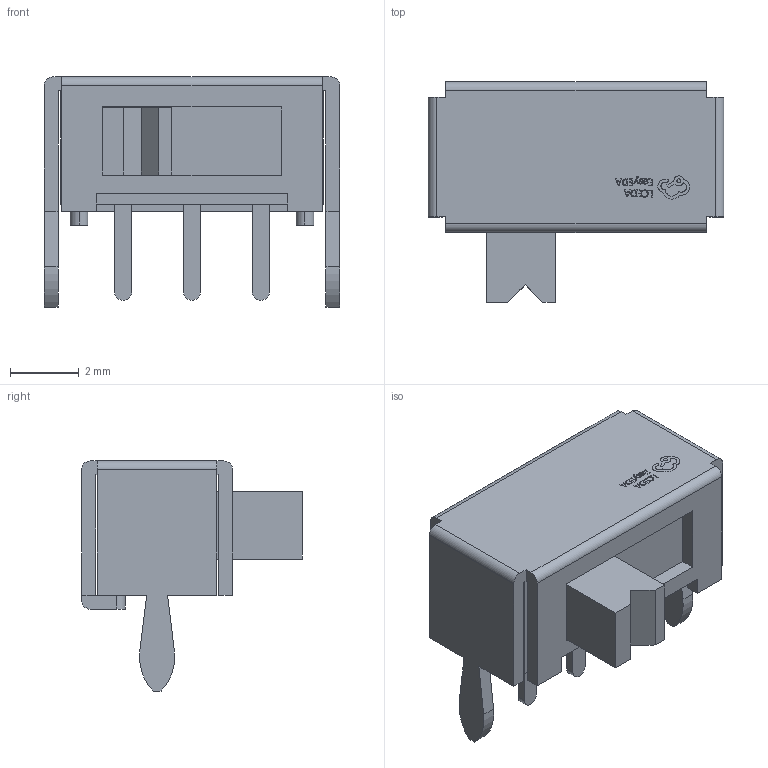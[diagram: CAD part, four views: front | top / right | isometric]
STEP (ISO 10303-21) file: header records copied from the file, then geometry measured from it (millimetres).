
FILE_DESCRIPTION (( 'STEP AP214' ), '1' );
FILE_NAME ('SW-TH_OS102011MA1QN1.step', '2022-07-26T17:20:14', ( '' ), ( '' ), 'SwSTEP 2.0', 'SolidWorks 2020', '' );
FILE_SCHEMA (( 'AUTOMOTIVE_DESIGN' ));
Length unit declared in the file: millimetre
Products named in the file (1): SW-TH_OS102011MA1QN1
Bounding box: 8.61 x 6.43 x 6.71 mm (x, y, z)
Volume: 139.6 mm3; surface area: 351.6 mm2
Topology: 14 solids, 14 shells, 393 faces, 1057 edges, 702 vertices
Faces by surface type: plane 261, bspline 112, cylinder 20
Entity records: 17893 total; most frequent: CARTESIAN_POINT 4257, ORIENTED_EDGE 2114, DIRECTION 1433, EDGE_CURVE 1057, VECTOR 789, LINE 789, VERTEX_POINT 702, EDGE_LOOP 423
